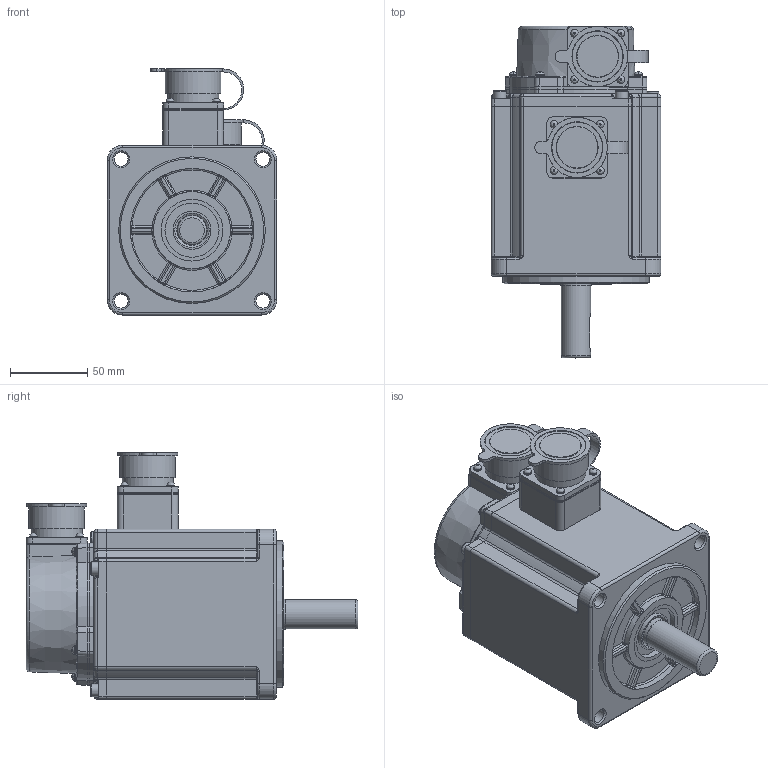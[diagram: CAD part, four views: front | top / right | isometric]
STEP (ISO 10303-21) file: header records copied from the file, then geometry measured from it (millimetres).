
FILE_DESCRIPTION(/* description */ (''),/* implementation_level */ '2;1');
FILE_NAME(/* name */ '28K6N.stp',/* time_stamp */ '2024-04-19T09:37:02+08:00',/* author */ (''),/* organization */ (''),/* preprocessor_version */ 'ST-DEVELOPER v18.1',/* originating_system */ 'SIEMENS PLM Software NX 2000',/* authorisation */ '');
FILE_SCHEMA (('AUTOMOTIVE_DESIGN { 1 0 10303 214 3 1 1 1 }'));
Length unit declared in the file: millimetre
Products named in the file (1): 92504378DBD25y1a
Bounding box: 110 x 215 x 159.5 mm (x, y, z)
Volume: 1555707 mm3; surface area: 206073.3 mm2
Topology: 26 solids, 29 shells, 1117 faces, 2608 edges, 1543 vertices
Faces by surface type: cylinder 413, plane 372, torus 108, bspline 97, cone 67, sphere 60
Full cylindrical faces by diameter (mm): 2.5 x10, 2.8 x1, 3 x4, 3.5 x1, 4 x3, 4.1 x16, 4.2 x3, 4.826 x4, 5 x13, 5.5 x3, 8.5 x4, 9 x4, 19 x1, 19.6 x1, 20 x1, 22.288 x1, 24 x1, 24.616 x1, 27 x4, 28 x1, 30 x3, 33 x6, 35 x1, 36 x2, 40 x2, 95 x1, 100 x1, 104 x1
Entity records: 34019 total; most frequent: CARTESIAN_POINT 9631, DIRECTION 5271, ORIENTED_EDGE 4656, EDGE_CURVE 2328, AXIS2_PLACEMENT_3D 2173, VERTEX_POINT 1485, EDGE_LOOP 1394, CIRCLE 1128
